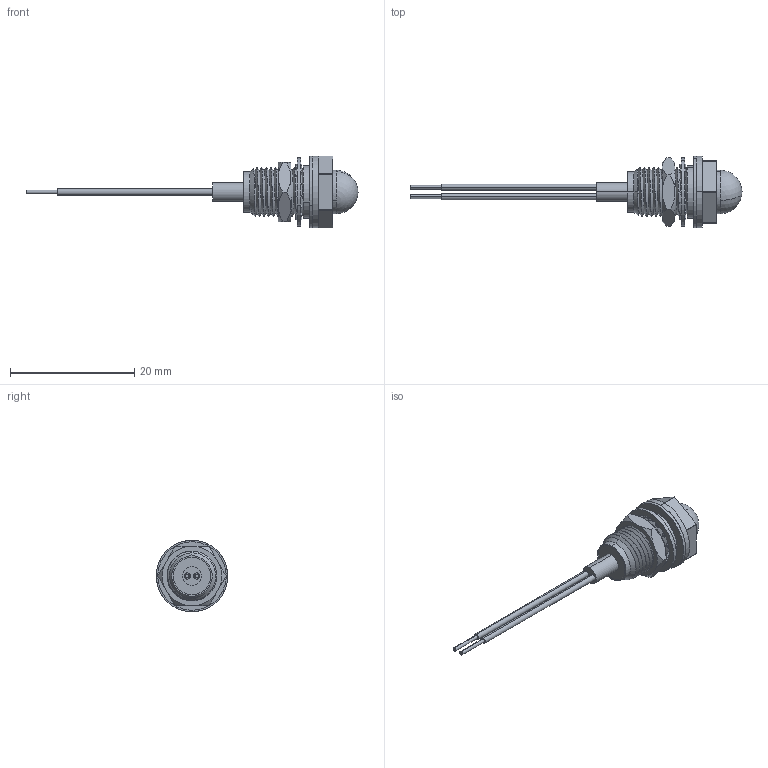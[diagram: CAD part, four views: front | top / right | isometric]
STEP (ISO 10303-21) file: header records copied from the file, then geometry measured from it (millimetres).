
FILE_DESCRIPTION (( 'STEP AP203' ), '1' );
FILE_NAME ('665 WITH WIRES.STEP', '2014-07-07T12:53:34', ( 'mark' ), ( '' ), 'SwSTEP 2.0', 'SolidWorks 2014', '' );
FILE_SCHEMA (( 'CONFIG_CONTROL_DESIGN' ));
Length unit declared in the file: millimetre
Products named in the file (7): COM4031; COM4299; 665 WITH WIRES; COM4188; COM2236; COM2375; wire connections for 665 series
Assembly tree (6 placements, depth 2):
  665 WITH WIRES
    COM4031
    COM4299
    COM4188
    COM2236
    COM2375
    wire connections for 665 series
Bounding box: 53.4 x 11.5 x 11.5 mm (x, y, z)
Volume: 668.9 mm3; surface area: 1939.5 mm2
Topology: 6 solids, 6 shells, 291 faces, 805 edges, 534 vertices
Faces by surface type: plane 109, cylinder 99, bspline 58, cone 21, sphere 4
Entity records: 12145 total; most frequent: CARTESIAN_POINT 4941, ORIENTED_EDGE 1606, DIRECTION 1104, EDGE_CURVE 803, VERTEX_POINT 534, AXIS2_PLACEMENT_3D 414, EDGE_LOOP 309, ADVANCED_FACE 291
